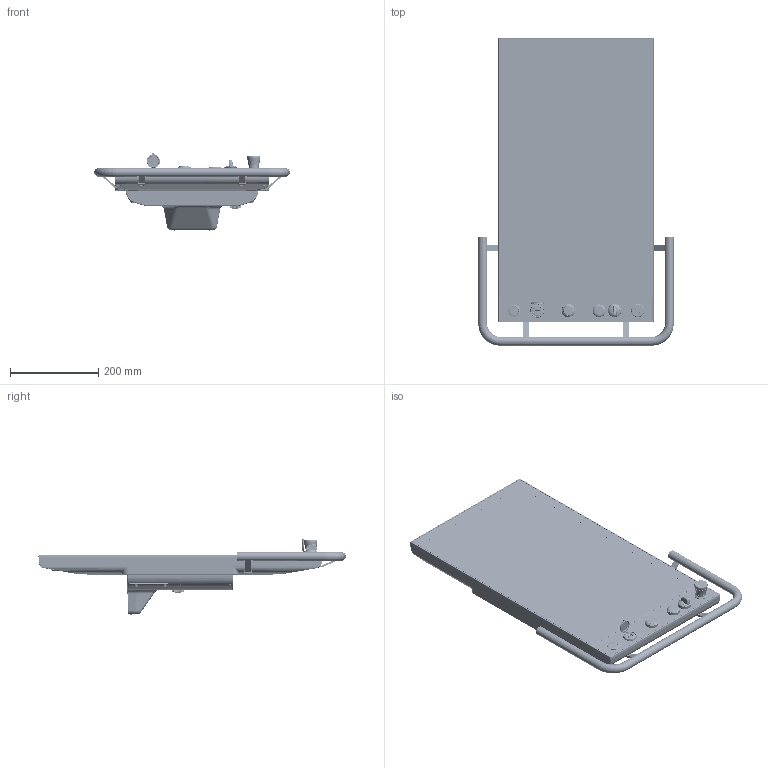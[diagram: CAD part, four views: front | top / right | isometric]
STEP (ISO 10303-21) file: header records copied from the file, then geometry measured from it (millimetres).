
FILE_DESCRIPTION (( 'STEP AP214' ), '1' );
FILE_NAME ('DIMA VK3500P-BA 24.0 TOP ARM CON MANIGLIA INFERIORE.STEP', '2021-09-14T10:02:42', ( '' ), ( '' ), 'SwSTEP 2.0', 'SolidWorks 2021', '' );
FILE_SCHEMA (( 'AUTOMOTIVE_DESIGN' ));
Length unit declared in the file: millimetre
Products named in the file (37): 57836083_Default<A macchina>; 26140000; 57342391; 66811015; 56202014; 56600718; 56636972_Default<A macchina>; 58755015; DIMA VK3500P-BA 24.0 TOP ARM CON MANIGLIA INFERIORE; 26020043; 56600719; 26020037; 50342043; 56236078; 55455178; 58755018; 56202011; 69111035; 55688019; 60290002; 93657770; 69111036; 26020035; 69111017; kit_posteriore_arm_usb3; 69111021; 69111016; 55600023; 56236082; 56636969; 57836084; 56202012; 56202013; 21507074; 48000080; 26020033; 56600724
Assembly tree (57 placements, depth 4):
  DIMA VK3500P-BA 24.0 TOP ARM CON MANIGLIA INFERIORE
    56600719
      56600718
        56636969
        50342043
        55455178
      55600023
        55688019
        48000080
        21507074
    56600724
      56636972_Default<A macchina>
      57342391
    57836084
      57836083_Default<A macchina>
    kit_posteriore_arm_usb3
    60290002  x6
    69111036  x2
    58755018  x2
    56202014  x2
      56202013
    56236082
      56236078
    66811015  x8
    69111021  x2
    56202012  x2
      56202011
    69111035  x2
    69111017  x2
    69111016  x2
    58755015  x2
    26020037
    26020033
    26020035
    26140000
    26020043
    93657770
Bounding box: 442.9 x 696.73 x 174.69 mm (x, y, z)
Volume: 2090262.1 mm3; surface area: 1840861.2 mm2
Topology: 94 solids, 192 shells, 9902 faces, 26334 edges, 16787 vertices
Faces by surface type: plane 4456, cylinder 2760, cone 1298, bspline 962, torus 324, sphere 102
Entity records: 446671 total; most frequent: CARTESIAN_POINT 172409, ORIENTED_EDGE 48217, DIRECTION 42368, EDGE_CURVE 24709, VERTEX_POINT 15830, AXIS2_PLACEMENT_3D 15111, VECTOR 12146, LINE 12146
